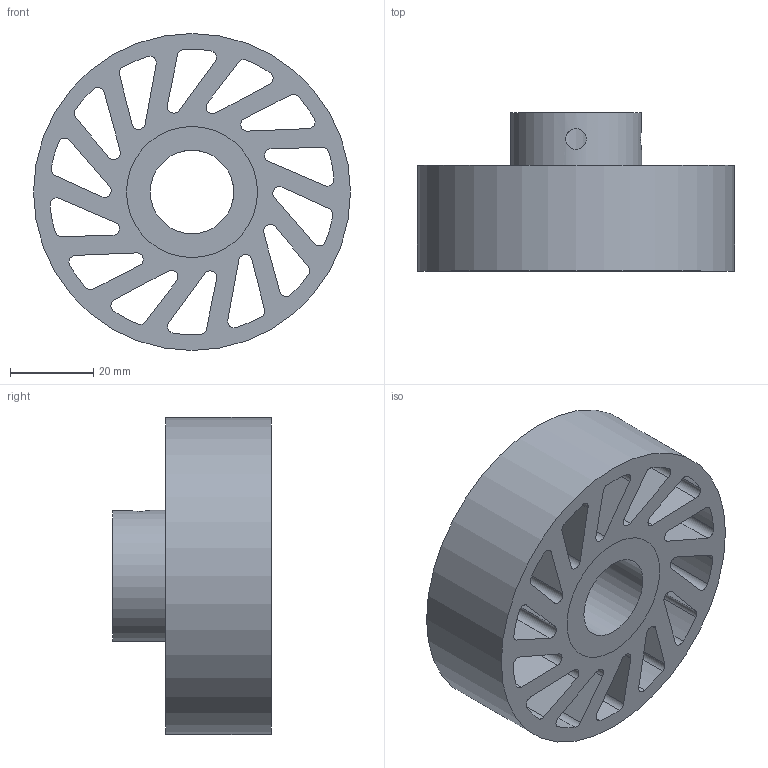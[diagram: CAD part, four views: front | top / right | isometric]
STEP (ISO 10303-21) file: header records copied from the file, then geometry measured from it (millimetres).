
FILE_DESCRIPTION(/* description */ (''),/* implementation_level */ '2;1');
FILE_NAME(/* name */ 'NCWM-670-XXX-YYY.stp',/* time_stamp */ '2023-02-02T16:16:17-06:00',/* author */ ('AG'),/* organization */ ('Meridian Laboratory'),/* preprocessor_version */ 'ST-DEVELOPER v18.1',/* originating_system */ 'Autodesk Inventor 2022',/* authorisation */ '');
FILE_SCHEMA (('AUTOMOTIVE_DESIGN { 1 0 10303 214 3 1 1 }'));
Length unit declared in the file: millimetre
Products named in the file (1): NCWM-640
Bounding box: 76.2 x 38.1 x 76.2 mm (x, y, z)
Volume: 78166.8 mm3; surface area: 35947.8 mm2
Topology: 2 solids, 2 shells, 94 faces, 274 edges, 184 vertices
Faces by surface type: cylinder 62, plane 32
Full cylindrical faces by diameter (mm): 5 x2, 20.025 x1, 31.496 x2, 76.2 x1
Entity records: 3510 total; most frequent: CARTESIAN_POINT 689, DIRECTION 576, ORIENTED_EDGE 548, EDGE_CURVE 274, AXIS2_PLACEMENT_3D 215, VERTEX_POINT 184, LINE 146, VECTOR 146
